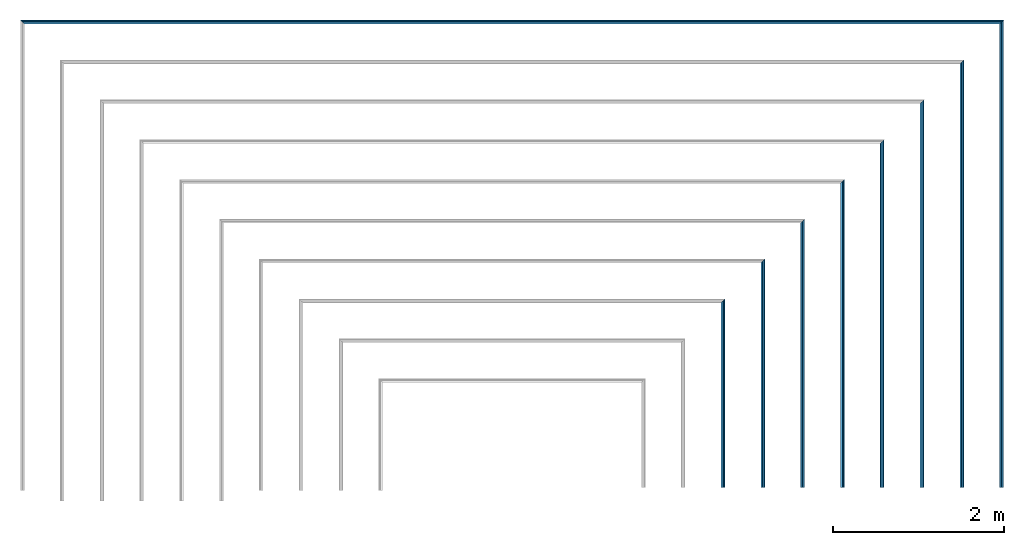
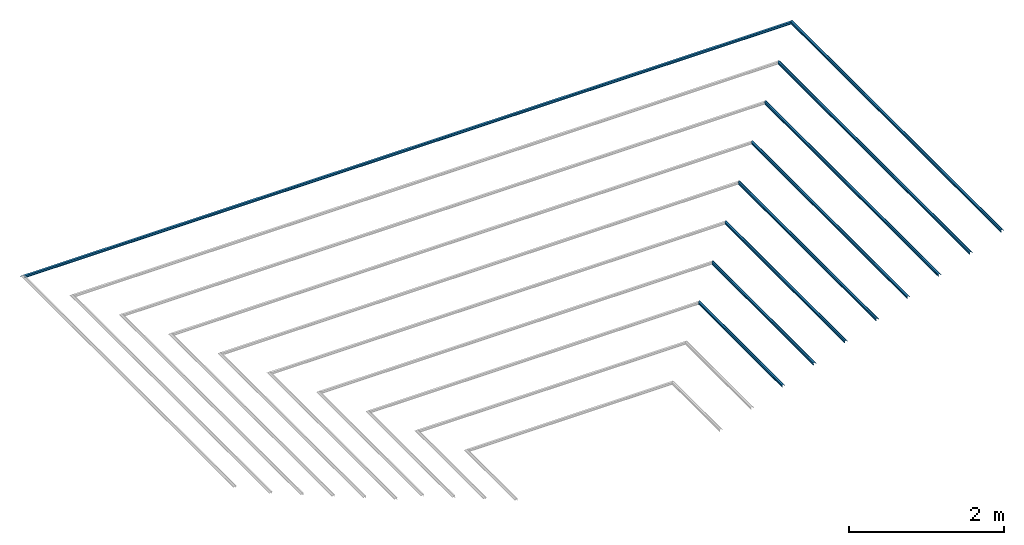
# One storey, part 2 of 2: 9 members.
"""IFC4X3_ADD2 building model written with IfcOpenShell, lengths in millimetres."""

from ifc_helpers import new_model, entity, si_unit, converted_unit, frame, origin_with_axes, origin_2d_with_axis, place, context, subcontext, project, spatial, indexed_curve, outline, extrude, clip, halfspace, material, material_profile, profile_set, profile_usage, type_object, element, save


model = new_model("IFC4X3_ADD2")

# Units and contexts
model_context = context("Model", 3, precision=1e-05, world=origin_with_axes())
plan_context = context("Plan", 2, precision=1e-05, world=origin_2d_with_axis())
body_context = subcontext(model_context, "Body", "Model", "MODEL_VIEW")
ifc_project = project(units=[si_unit("VOLUMEUNIT", "CUBIC_METRE"), si_unit("LENGTHUNIT", "METRE", prefix="MILLI"), converted_unit("PLANEANGLEUNIT", "degree", entity("IfcReal", 0.0174532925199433), si_unit("PLANEANGLEUNIT", "RADIAN"), dimensions=[0, 0, 0, 0, 0, 0, 0]), si_unit("AREAUNIT", "SQUARE_METRE")], contexts=[model_context, plan_context])

# Site, building, storey
site_placement = place(None, origin_with_axes())
site = spatial("IfcSite", under=ifc_project, at=site_placement, Name="My Site")
building_placement = place(site_placement, origin_with_axes())
building = spatial("IfcBuilding", under=site, at=building_placement, Name="My Building")
storey_placement = place(building_placement, frame((0.0, 0.0, 10000.0), z_axis=(0.0, 0.0, 1.0), x_axis=(1.0, 0.0, 0.0)))
storey = spatial("IfcBuildingStorey", under=building, at=storey_placement, Name="ATAS")

# Members
ifc_material = material(Name="plester")
ifc_material_profile = material_profile(ifc_material, outline(indexed_curve([(-9.99999977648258, -0.749990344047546), (9.99999977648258, -0.749990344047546), (15.0000005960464, -30.7499915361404), (25.0000022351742, -30.7499915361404), (25.0000022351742, -29.999990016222), (15.635346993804, -29.999990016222), (10.6353452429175, 9.31322574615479e-06), (-10.6353452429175, 9.31322574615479e-06), (-15.635346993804, -29.999990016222), (-25.0000022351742, -29.999990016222), (-25.0000022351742, -30.7499915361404), (-15.0000005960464, -30.7499915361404), (-9.99999977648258, -0.749990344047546)])))
ifc_profile_set = profile_set([ifc_material_profile])
ifc_profile_usage_1 = profile_usage(ifc_profile_set, cardinal=15)
member_type = type_object("IfcMemberType", Name="Reng", PredefinedType="MEMBER", material=ifc_profile_set)
member_1_placement = place(storey_placement, frame((-61.3064058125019, 5554.42810058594, -1689.7029876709), z_axis=(0.999999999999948, -2.66541661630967e-07, 1.80971539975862e-07), x_axis=(1.80971539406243e-07, 0.929454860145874, 0.368935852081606)))
element("IfcMember", 1, at=member_1_placement, inside=storey, type_object=member_type, material=ifc_profile_usage_1, Name="Member", context=body_context, shape_type="Clipping", body=[
    clip(clip(extrude(outline(indexed_curve([(-9.99999977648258, -0.749990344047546), (9.99999977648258, -0.749990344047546), (15.0000005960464, -30.7499915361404), (25.0000022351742, -30.7499915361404), (25.0000022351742, -29.999990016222), (15.635346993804, -29.999990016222), (10.6353452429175, 9.31322574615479e-06), (-10.6353452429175, 9.31322574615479e-06), (-15.635346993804, -29.999990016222), (-25.0000022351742, -29.999990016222), (-25.0000022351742, -30.7499915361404), (-15.0000005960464, -30.7499915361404), (-9.99999977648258, -0.749990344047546)])), origin_with_axes(), (0.0, 0.0, 1.0), 11562.5936968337), halfspace(frame((25.0008217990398, -1257.03418254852, 11975.0394821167), z_axis=(-0.657001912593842, 0.262112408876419, 0.706856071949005), x_axis=(0.370551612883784, 0.928811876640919, 0.0)), False)), halfspace(frame((25.0007137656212, -4986.34719848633, -1795.33398151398), z_axis=(-0.657001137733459, 0.262113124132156, -0.706856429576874), x_axis=(0.370552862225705, 0.928811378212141, 0.0)), False)),
])
ifc_profile_usage_2 = profile_usage(ifc_profile_set, cardinal=5)
member_2_placement = place(storey_placement, frame((8169.6891784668, 135.637998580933, -2976.99928283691), z_axis=(-3.82625472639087e-07, 0.999999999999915, 1.51322282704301e-07), x_axis=(-0.928809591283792, -2.99312634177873e-07, -0.370557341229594)))
element("IfcMember", 2, at=member_2_placement, inside=storey, type_object=member_type, material=ifc_profile_usage_2, Name="Member", context=body_context, shape_type="Clipping", body=[
    clip(extrude(outline(indexed_curve([(-9.99999977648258, -0.749990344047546), (9.99999977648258, -0.749990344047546), (15.0000005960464, -30.7499915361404), (25.0000022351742, -30.7499915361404), (25.0000022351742, -29.999990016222), (15.635346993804, -29.999990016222), (10.6353452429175, 9.31322574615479e-06), (-10.6353452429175, 9.31322574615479e-06), (-15.635346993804, -29.999990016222), (-25.0000022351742, -29.999990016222), (-25.0000022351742, -30.7499915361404), (-15.0000005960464, -30.7499915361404), (-9.99999977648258, -0.749990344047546)])), origin_with_axes(), (0.0, 0.0, 1.0), 2241.01402065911), halfspace(frame((-25.0008087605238, -2323.44627380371, 3043.94364356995), z_axis=(0.656984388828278, 0.260789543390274, 0.707361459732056), x_axis=(0.368945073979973, -0.929451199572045, 0.0)), False)),
])
ifc_profile_usage_3 = profile_usage(ifc_profile_set, cardinal=5)
member_3_placement = place(storey_placement, frame((8634.09423828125, 135.638147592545, -2791.72039031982), z_axis=(-3.82625472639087e-07, 0.999999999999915, 1.51322282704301e-07), x_axis=(-0.928809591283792, -2.99312634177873e-07, -0.370557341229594)))
element("IfcMember", 3, at=member_3_placement, inside=storey, type_object=member_type, material=ifc_profile_usage_3, Name="Member", context=body_context, shape_type="Clipping", body=[
    clip(extrude(outline(indexed_curve([(-9.99999977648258, -0.749990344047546), (9.99999977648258, -0.749990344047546), (15.0000005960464, -30.7499915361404), (25.0000022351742, -30.7499915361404), (25.0000022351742, -29.999990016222), (15.635346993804, -29.999990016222), (10.6353452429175, 9.31322574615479e-06), (-10.6353452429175, 9.31322574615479e-06), (-15.635346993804, -29.999990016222), (-25.0000022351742, -29.999990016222), (-25.0000022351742, -30.7499915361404), (-15.0000005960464, -30.7499915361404), (-9.99999977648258, -0.749990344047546)])), origin_with_axes(), (0.0, 0.0, 1.0), 2705.41954777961), halfspace(frame((-25.0009316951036, -2172.71757125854, 3452.77833938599), z_axis=(0.656993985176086, 0.26078662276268, 0.70735365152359), x_axis=(0.368936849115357, -0.929454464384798, 0.0)), False)),
])
ifc_profile_usage_4 = profile_usage(ifc_profile_set, cardinal=5)
member_4_placement = place(storey_placement, frame((9098.49834442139, 135.638311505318, -2606.44149780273), z_axis=(-3.82625472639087e-07, 0.999999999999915, 1.51322282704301e-07), x_axis=(-0.928809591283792, -2.99312634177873e-07, -0.370557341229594)))
element("IfcMember", 4, at=member_4_placement, inside=storey, type_object=member_type, material=ifc_profile_usage_4, Name="Member", context=body_context, shape_type="Clipping", body=[
    clip(extrude(outline(indexed_curve([(-9.99999977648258, -0.749990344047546), (9.99999977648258, -0.749990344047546), (15.0000005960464, -30.7499915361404), (25.0000022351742, -30.7499915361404), (25.0000022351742, -29.999990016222), (15.635346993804, -29.999990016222), (10.6353452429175, 9.31322574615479e-06), (-10.6353452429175, 9.31322574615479e-06), (-15.635346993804, -29.999990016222), (-25.0000022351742, -29.999990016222), (-25.0000022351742, -30.7499915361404), (-15.0000005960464, -30.7499915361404), (-9.99999977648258, -0.749990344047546)])), origin_with_axes(), (0.0, 0.0, 1.0), 3169.82484905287), halfspace(frame((-25.0000990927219, -2021.98839187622, 3861.61351203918), z_axis=(0.657011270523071, 0.260781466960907, 0.707339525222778), x_axis=(0.36892216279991, -0.929460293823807, 0.0)), False)),
])
ifc_profile_usage_5 = profile_usage(ifc_profile_set, cardinal=5)
member_5_placement = place(storey_placement, frame((9562.90340423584, 135.63846051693, -2421.1630821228), z_axis=(-3.82625472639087e-07, 0.999999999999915, 1.51322282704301e-07), x_axis=(-0.928809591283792, -2.99312634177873e-07, -0.370557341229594)))
element("IfcMember", 5, at=member_5_placement, inside=storey, type_object=member_type, material=ifc_profile_usage_5, Name="Member", context=body_context, shape_type="Clipping", body=[
    clip(extrude(outline(indexed_curve([(-9.99999977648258, -0.749990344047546), (9.99999977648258, -0.749990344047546), (15.0000005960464, -30.7499915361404), (25.0000022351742, -30.7499915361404), (25.0000022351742, -29.999990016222), (15.635346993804, -29.999990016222), (10.6353452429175, 9.31322574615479e-06), (-10.6353452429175, 9.31322574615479e-06), (-15.635346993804, -29.999990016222), (-25.0000022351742, -29.999990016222), (-25.0000022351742, -30.7499915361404), (-15.0000005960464, -30.7499915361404), (-9.99999977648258, -0.749990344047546)])), origin_with_axes(), (0.0, 0.0, 1.0), 3634.23033907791), halfspace(frame((-25.0009372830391, -1871.2592124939, 4270.44725418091), z_axis=(0.656990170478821, 0.260787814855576, 0.707356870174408), x_axis=(0.368940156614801, -0.929453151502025, 0.0)), False)),
])
ifc_profile_usage_6 = profile_usage(ifc_profile_set, cardinal=5)
member_6_placement = place(storey_placement, frame((10027.3084640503, 135.638609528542, -2235.88418960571), z_axis=(-3.82625472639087e-07, 0.999999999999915, 1.51322282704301e-07), x_axis=(-0.928809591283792, -2.99312634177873e-07, -0.370557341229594)))
element("IfcMember", 6, at=member_6_placement, inside=storey, type_object=member_type, material=ifc_profile_usage_6, Name="Member", context=body_context, shape_type="Clipping", body=[
    clip(extrude(outline(indexed_curve([(-9.99999977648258, -0.749990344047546), (9.99999977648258, -0.749990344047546), (15.0000005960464, -30.7499915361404), (25.0000022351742, -30.7499915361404), (25.0000022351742, -29.999990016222), (15.635346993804, -29.999990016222), (10.6353452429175, 9.31322574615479e-06), (-10.6353452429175, 9.31322574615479e-06), (-15.635346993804, -29.999990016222), (-25.0000022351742, -29.999990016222), (-25.0000022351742, -30.7499915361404), (-15.0000005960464, -30.7499915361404), (-9.99999977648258, -0.749990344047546)])), origin_with_axes(), (0.0, 0.0, 1.0), 4098.63525565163), halfspace(frame((-24.9991528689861, -1720.5308675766, 4679.28218841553), z_axis=(0.657001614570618, 0.260784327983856, 0.707347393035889), x_axis=(0.368930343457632, -0.929457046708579, 0.0)), False)),
])
ifc_profile_usage_7 = profile_usage(ifc_profile_set, cardinal=5)
member_7_placement = place(storey_placement, frame((10491.7125701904, 135.638758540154, -2050.60577392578), z_axis=(-3.82625472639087e-07, 0.999999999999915, 1.51322282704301e-07), x_axis=(-0.928809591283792, -2.99312634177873e-07, -0.370557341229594)))
element("IfcMember", 7, at=member_7_placement, inside=storey, type_object=member_type, material=ifc_profile_usage_7, Name="Member", context=body_context, shape_type="Clipping", body=[
    clip(extrude(outline(indexed_curve([(-9.99999977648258, -0.749990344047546), (9.99999977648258, -0.749990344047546), (15.0000005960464, -30.7499915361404), (25.0000022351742, -30.7499915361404), (25.0000022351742, -29.999990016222), (15.635346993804, -29.999990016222), (10.6353452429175, 9.31322574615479e-06), (-10.6353452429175, 9.31322574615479e-06), (-15.635346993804, -29.999990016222), (-25.0000022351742, -29.999990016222), (-25.0000022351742, -30.7499915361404), (-15.0000005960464, -30.7499915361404), (-9.99999977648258, -0.749990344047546)])), origin_with_axes(), (0.0, 0.0, 1.0), 4563.04071436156), halfspace(frame((-24.9999891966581, -1569.80204582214, 5088.1175994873), z_axis=(0.657005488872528, 0.260783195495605, 0.70734429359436), x_axis=(0.368927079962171, -0.929458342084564, 0.0)), False)),
])
ifc_profile_usage_8 = profile_usage(ifc_profile_set, cardinal=5)
member_8_placement = place(storey_placement, frame((10956.1176300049, 135.638907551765, -1865.32688140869), z_axis=(-3.82625472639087e-07, 0.999999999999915, 1.51322282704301e-07), x_axis=(-0.928809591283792, -2.99312634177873e-07, -0.370557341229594)))
element("IfcMember", 8, at=member_8_placement, inside=storey, type_object=member_type, material=ifc_profile_usage_8, Name="Member", context=body_context, shape_type="Clipping", body=[
    clip(extrude(outline(indexed_curve([(-9.99999977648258, -0.749990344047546), (9.99999977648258, -0.749990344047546), (15.0000005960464, -30.7499915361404), (25.0000022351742, -30.7499915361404), (25.0000022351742, -29.999990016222), (15.635346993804, -29.999990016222), (10.6353452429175, 9.31322574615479e-06), (-10.6353452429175, 9.31322574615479e-06), (-15.635346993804, -29.999990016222), (-25.0000022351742, -29.999990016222), (-25.0000022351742, -30.7499915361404), (-15.0000005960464, -30.7499915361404), (-9.99999977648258, -0.749990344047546)])), origin_with_axes(), (0.0, 0.0, 1.0), 5027.44618558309), halfspace(frame((-25.0008273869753, -1419.07322406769, 5496.95205688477), z_axis=(0.657009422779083, 0.260782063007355, 0.707341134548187), x_axis=(0.36892378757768, -0.929459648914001, 0.0)), False)),
])
ifc_profile_usage_9 = profile_usage(ifc_profile_set, cardinal=5)
member_9_placement = place(storey_placement, frame((11420.5226898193, 135.639056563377, -1680.0479888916), z_axis=(-3.82625472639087e-07, 0.999999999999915, 1.51322282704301e-07), x_axis=(-0.928809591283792, -2.99312634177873e-07, -0.370557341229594)))
element("IfcMember", 9, at=member_9_placement, inside=storey, type_object=member_type, material=ifc_profile_usage_9, Name="Member", context=body_context, shape_type="Clipping", body=[
    clip(extrude(outline(indexed_curve([(-9.99999977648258, -0.749990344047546), (9.99999977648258, -0.749990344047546), (15.0000005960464, -30.7499915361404), (25.0000022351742, -30.7499915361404), (25.0000022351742, -29.999990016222), (15.635346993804, -29.999990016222), (10.6353452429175, 9.31322574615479e-06), (-10.6353452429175, 9.31322574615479e-06), (-15.635346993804, -29.999990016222), (-25.0000022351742, -29.999990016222), (-25.0000022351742, -30.7499915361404), (-15.0000005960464, -30.7499915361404), (-9.99999977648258, -0.749990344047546)])), origin_with_axes(), (0.0, 0.0, 1.0), 5491.85131883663), halfspace(frame((-25.0009503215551, -1268.34464073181, 5905.7879447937), z_axis=(0.656993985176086, 0.26078662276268, 0.70735365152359), x_axis=(0.368936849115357, -0.929454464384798, 0.0)), False)),
])

save(model, "model.ifc")
